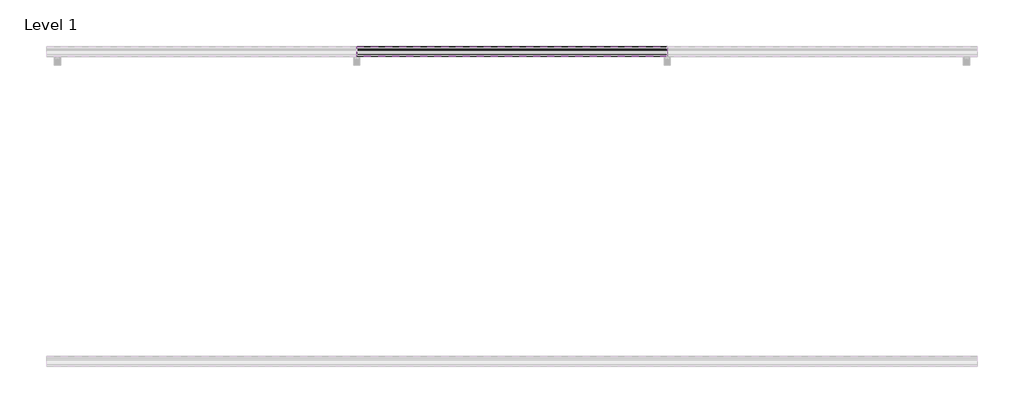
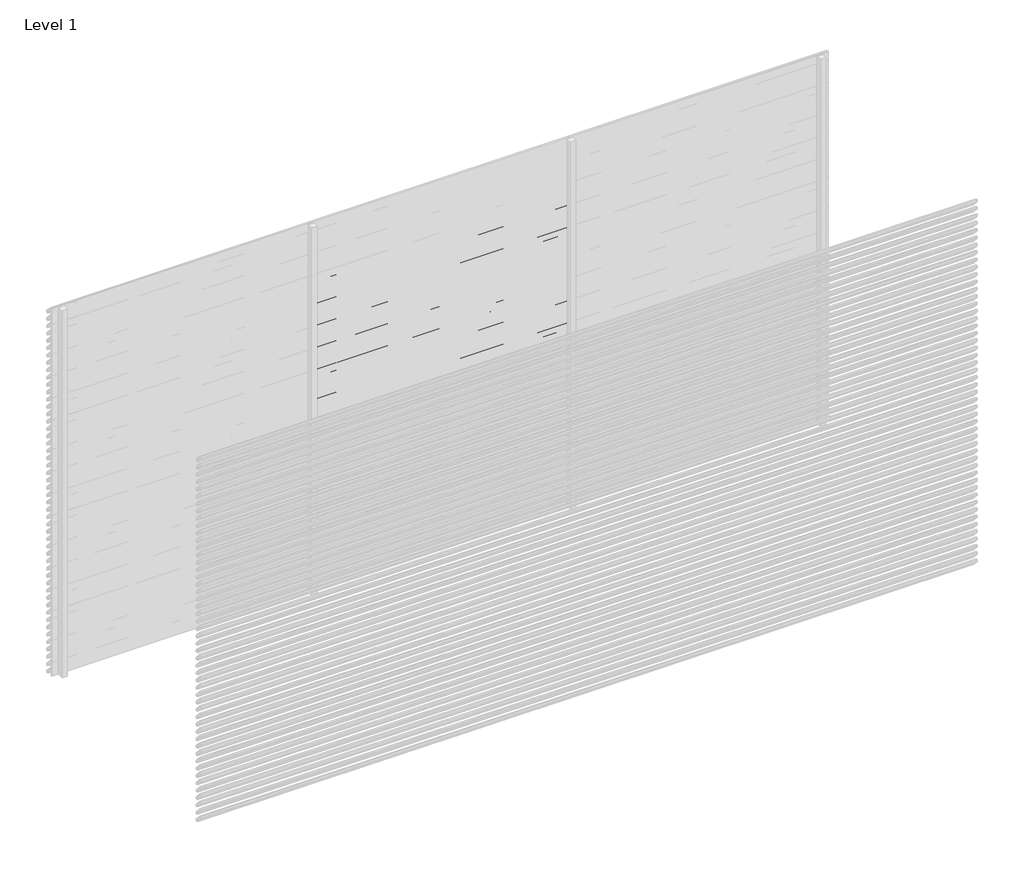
# One storey, part 93 of 153: 33 proxies.
"""IFC4 building model written with IfcOpenShell, lengths in millimetres."""

from ifc_helpers import new_model, si_unit, point, frame, frame_2d, origin, place, context, project, spatial, polyline, circle_curve, trimmed, segment, composite_curve, outline, extrude, element, save

model = new_model("IFC4")

# Units and contexts
model_context = context("Model", 3, world=origin())
ifc_project = project(units=[si_unit("LENGTHUNIT", "METRE", prefix="MILLI")], contexts=[model_context])

# Site, building, storey
site = spatial("IfcSite", under=ifc_project)
building = spatial("IfcBuilding", under=site)
storey = spatial("IfcBuildingStorey", under=building, Name="Level 1", Elevation=0.0)

# Proxies
placement = place(None, origin())
element("IfcBuildingElementProxy", 1, Name="Wall Sweeps", at=placement, inside=storey, context=model_context, shape_type="SweptSolid", body=[
    extrude(outline(composite_curve([segment(polyline([(36485.0540136, 2520.0), (36499.874191, 2518.7034025), (36549.0540136, 2465.0102749), (36549.0540136, 2453.6108187)]), True, "CONTINUOUS"), segment(trimmed(circle_curve(frame_2d((36545.7883652, 2453.897153)), 3.2781774), [point((36549.0540136, 2453.6108187))], [point((36546.4639442, 2450.6893438))], False, "CARTESIAN"), True, "CONTINUOUS"), segment(polyline([(36546.4639442, 2450.6893438), (36534.1895723, 2451.6282758), (36485.0540136, 2505.2730773), (36485.0540136, 2520.0)]), True, "CONTINUOUS")], self_intersect=False), holes=[composite_curve([segment(polyline([(36499.1621773, 2517.2599659), (36486.5540136, 2518.3630372), (36486.5540136, 2505.856213), (36534.8952036, 2453.0786805), (36546.3312542, 2452.2038762)]), True, "CONTINUOUS"), segment(trimmed(circle_curve(frame_2d((36545.7883652, 2453.897153)), 1.7781774), [point((36546.3312542, 2452.2038762))], [point((36547.5540136, 2453.6864389))], True, "CARTESIAN"), True, "CONTINUOUS"), segment(polyline([(36547.5540136, 2453.6864389), (36547.5540136, 2464.4271392), (36499.1621773, 2517.2599659)]), True, "CONTINUOUS")], self_intersect=False)]), frame((46966.6208098, 0.0, 0.0), z_axis=(1.0, 0.0, 0.0), x_axis=(0.0, 1.0, 0.0)), (0.0, 0.0, 1.0), 1999.9999998),
])
element("IfcBuildingElementProxy", 2, Name="Wall Sweeps", at=placement, inside=storey, context=model_context, shape_type="SweptSolid", body=[
    extrude(outline(composite_curve([segment(polyline([(36485.0540136, 2460.0), (36499.874191, 2458.7034025), (36549.0540136, 2405.0102749), (36549.0540136, 2393.6108187)]), True, "CONTINUOUS"), segment(trimmed(circle_curve(frame_2d((36545.7883652, 2393.897153)), 3.2781774), [point((36549.0540136, 2393.6108187))], [point((36546.4639442, 2390.6893438))], False, "CARTESIAN"), True, "CONTINUOUS"), segment(polyline([(36546.4639442, 2390.6893438), (36534.1895723, 2391.6282758), (36485.0540136, 2445.2730773), (36485.0540136, 2460.0)]), True, "CONTINUOUS")], self_intersect=False), holes=[composite_curve([segment(polyline([(36499.1621773, 2457.2599659), (36486.5540136, 2458.3630372), (36486.5540136, 2445.856213), (36534.8952036, 2393.0786805), (36546.3312542, 2392.2038762)]), True, "CONTINUOUS"), segment(trimmed(circle_curve(frame_2d((36545.7883652, 2393.897153)), 1.7781774), [point((36546.3312542, 2392.2038762))], [point((36547.5540136, 2393.6864389))], True, "CARTESIAN"), True, "CONTINUOUS"), segment(polyline([(36547.5540136, 2393.6864389), (36547.5540136, 2404.4271392), (36499.1621773, 2457.2599659)]), True, "CONTINUOUS")], self_intersect=False)]), frame((46966.6208098, 0.0, 0.0), z_axis=(1.0, 0.0, 0.0), x_axis=(0.0, 1.0, 0.0)), (0.0, 0.0, 1.0), 1999.9999998),
])
element("IfcBuildingElementProxy", 3, Name="Wall Sweeps", at=placement, inside=storey, context=model_context, shape_type="SweptSolid", body=[
    extrude(outline(composite_curve([segment(polyline([(36485.0540136, 2400.0), (36499.874191, 2398.7034025), (36549.0540136, 2345.0102749), (36549.0540136, 2333.6108187)]), True, "CONTINUOUS"), segment(trimmed(circle_curve(frame_2d((36545.7883652, 2333.897153)), 3.2781774), [point((36549.0540136, 2333.6108187))], [point((36546.4639442, 2330.6893438))], False, "CARTESIAN"), True, "CONTINUOUS"), segment(polyline([(36546.4639442, 2330.6893438), (36534.1895723, 2331.6282758), (36485.0540136, 2385.2730773), (36485.0540136, 2400.0)]), True, "CONTINUOUS")], self_intersect=False), holes=[composite_curve([segment(polyline([(36499.1621773, 2397.2599659), (36486.5540136, 2398.3630372), (36486.5540136, 2385.856213), (36534.8952036, 2333.0786805), (36546.3312542, 2332.2038762)]), True, "CONTINUOUS"), segment(trimmed(circle_curve(frame_2d((36545.7883652, 2333.897153)), 1.7781774), [point((36546.3312542, 2332.2038762))], [point((36547.5540136, 2333.6864389))], True, "CARTESIAN"), True, "CONTINUOUS"), segment(polyline([(36547.5540136, 2333.6864389), (36547.5540136, 2344.4271392), (36499.1621773, 2397.2599659)]), True, "CONTINUOUS")], self_intersect=False)]), frame((46966.6208098, 0.0, 0.0), z_axis=(1.0, 0.0, 0.0), x_axis=(0.0, 1.0, 0.0)), (0.0, 0.0, 1.0), 1999.9999998),
])
element("IfcBuildingElementProxy", 4, Name="Wall Sweeps", at=placement, inside=storey, context=model_context, shape_type="SweptSolid", body=[
    extrude(outline(composite_curve([segment(polyline([(36485.0540136, 2340.0), (36499.874191, 2338.7034025), (36549.0540136, 2285.0102749), (36549.0540136, 2273.6108187)]), True, "CONTINUOUS"), segment(trimmed(circle_curve(frame_2d((36545.7883652, 2273.897153)), 3.2781774), [point((36549.0540136, 2273.6108187))], [point((36546.4639442, 2270.6893438))], False, "CARTESIAN"), True, "CONTINUOUS"), segment(polyline([(36546.4639442, 2270.6893438), (36534.1895723, 2271.6282758), (36485.0540136, 2325.2730773), (36485.0540136, 2340.0)]), True, "CONTINUOUS")], self_intersect=False), holes=[composite_curve([segment(polyline([(36499.1621773, 2337.2599659), (36486.5540136, 2338.3630372), (36486.5540136, 2325.856213), (36534.8952036, 2273.0786805), (36546.3312542, 2272.2038762)]), True, "CONTINUOUS"), segment(trimmed(circle_curve(frame_2d((36545.7883652, 2273.897153)), 1.7781774), [point((36546.3312542, 2272.2038762))], [point((36547.5540136, 2273.6864389))], True, "CARTESIAN"), True, "CONTINUOUS"), segment(polyline([(36547.5540136, 2273.6864389), (36547.5540136, 2284.4271392), (36499.1621773, 2337.2599659)]), True, "CONTINUOUS")], self_intersect=False)]), frame((46966.6208098, 0.0, 0.0), z_axis=(1.0, 0.0, 0.0), x_axis=(0.0, 1.0, 0.0)), (0.0, 0.0, 1.0), 1999.9999998),
])
element("IfcBuildingElementProxy", 5, Name="Wall Sweeps", at=placement, inside=storey, context=model_context, shape_type="SweptSolid", body=[
    extrude(outline(composite_curve([segment(polyline([(36485.0540136, 2280.0), (36499.874191, 2278.7034025), (36549.0540136, 2225.0102749), (36549.0540136, 2213.6108187)]), True, "CONTINUOUS"), segment(trimmed(circle_curve(frame_2d((36545.7883652, 2213.897153)), 3.2781774), [point((36549.0540136, 2213.6108187))], [point((36546.4639442, 2210.6893438))], False, "CARTESIAN"), True, "CONTINUOUS"), segment(polyline([(36546.4639442, 2210.6893438), (36534.1895723, 2211.6282758), (36485.0540136, 2265.2730773), (36485.0540136, 2280.0)]), True, "CONTINUOUS")], self_intersect=False), holes=[composite_curve([segment(polyline([(36499.1621773, 2277.2599659), (36486.5540136, 2278.3630372), (36486.5540136, 2265.856213), (36534.8952036, 2213.0786805), (36546.3312542, 2212.2038762)]), True, "CONTINUOUS"), segment(trimmed(circle_curve(frame_2d((36545.7883652, 2213.897153)), 1.7781774), [point((36546.3312542, 2212.2038762))], [point((36547.5540136, 2213.6864389))], True, "CARTESIAN"), True, "CONTINUOUS"), segment(polyline([(36547.5540136, 2213.6864389), (36547.5540136, 2224.4271392), (36499.1621773, 2277.2599659)]), True, "CONTINUOUS")], self_intersect=False)]), frame((46966.6208098, 0.0, 0.0), z_axis=(1.0, 0.0, 0.0), x_axis=(0.0, 1.0, 0.0)), (0.0, 0.0, 1.0), 1999.9999998),
])
element("IfcBuildingElementProxy", 6, Name="Wall Sweeps", at=placement, inside=storey, context=model_context, shape_type="SweptSolid", body=[
    extrude(outline(composite_curve([segment(polyline([(36485.0540136, 2220.0), (36499.874191, 2218.7034025), (36549.0540136, 2165.0102749), (36549.0540136, 2153.6108187)]), True, "CONTINUOUS"), segment(trimmed(circle_curve(frame_2d((36545.7883652, 2153.897153)), 3.2781774), [point((36549.0540136, 2153.6108187))], [point((36546.4639442, 2150.6893438))], False, "CARTESIAN"), True, "CONTINUOUS"), segment(polyline([(36546.4639442, 2150.6893438), (36534.1895723, 2151.6282758), (36485.0540136, 2205.2730773), (36485.0540136, 2220.0)]), True, "CONTINUOUS")], self_intersect=False), holes=[composite_curve([segment(polyline([(36499.1621773, 2217.2599659), (36486.5540136, 2218.3630372), (36486.5540136, 2205.856213), (36534.8952036, 2153.0786805), (36546.3312542, 2152.2038762)]), True, "CONTINUOUS"), segment(trimmed(circle_curve(frame_2d((36545.7883652, 2153.897153)), 1.7781774), [point((36546.3312542, 2152.2038762))], [point((36547.5540136, 2153.6864389))], True, "CARTESIAN"), True, "CONTINUOUS"), segment(polyline([(36547.5540136, 2153.6864389), (36547.5540136, 2164.4271392), (36499.1621773, 2217.2599659)]), True, "CONTINUOUS")], self_intersect=False)]), frame((46966.6208098, 0.0, 0.0), z_axis=(1.0, 0.0, 0.0), x_axis=(0.0, 1.0, 0.0)), (0.0, 0.0, 1.0), 1999.9999998),
])
element("IfcBuildingElementProxy", 7, Name="Wall Sweeps", at=placement, inside=storey, context=model_context, shape_type="SweptSolid", body=[
    extrude(outline(composite_curve([segment(polyline([(36485.0540136, 2160.0), (36499.874191, 2158.7034025), (36549.0540136, 2105.0102749), (36549.0540136, 2093.6108187)]), True, "CONTINUOUS"), segment(trimmed(circle_curve(frame_2d((36545.7883652, 2093.897153)), 3.2781774), [point((36549.0540136, 2093.6108187))], [point((36546.4639442, 2090.6893438))], False, "CARTESIAN"), True, "CONTINUOUS"), segment(polyline([(36546.4639442, 2090.6893438), (36534.1895723, 2091.6282758), (36485.0540136, 2145.2730773), (36485.0540136, 2160.0)]), True, "CONTINUOUS")], self_intersect=False), holes=[composite_curve([segment(polyline([(36499.1621773, 2157.2599659), (36486.5540136, 2158.3630372), (36486.5540136, 2145.856213), (36534.8952036, 2093.0786805), (36546.3312542, 2092.2038762)]), True, "CONTINUOUS"), segment(trimmed(circle_curve(frame_2d((36545.7883652, 2093.897153)), 1.7781774), [point((36546.3312542, 2092.2038762))], [point((36547.5540136, 2093.6864389))], True, "CARTESIAN"), True, "CONTINUOUS"), segment(polyline([(36547.5540136, 2093.6864389), (36547.5540136, 2104.4271392), (36499.1621773, 2157.2599659)]), True, "CONTINUOUS")], self_intersect=False)]), frame((46966.6208098, 0.0, 0.0), z_axis=(1.0, 0.0, 0.0), x_axis=(0.0, 1.0, 0.0)), (0.0, 0.0, 1.0), 1999.9999998),
])
element("IfcBuildingElementProxy", 8, Name="Wall Sweeps", at=placement, inside=storey, context=model_context, shape_type="SweptSolid", body=[
    extrude(outline(composite_curve([segment(polyline([(36485.0540136, 2100.0), (36499.874191, 2098.7034025), (36549.0540136, 2045.0102749), (36549.0540136, 2033.6108187)]), True, "CONTINUOUS"), segment(trimmed(circle_curve(frame_2d((36545.7883652, 2033.897153)), 3.2781774), [point((36549.0540136, 2033.6108187))], [point((36546.4639442, 2030.6893438))], False, "CARTESIAN"), True, "CONTINUOUS"), segment(polyline([(36546.4639442, 2030.6893438), (36534.1895723, 2031.6282758), (36485.0540136, 2085.2730773), (36485.0540136, 2100.0)]), True, "CONTINUOUS")], self_intersect=False), holes=[composite_curve([segment(polyline([(36499.1621773, 2097.2599659), (36486.5540136, 2098.3630372), (36486.5540136, 2085.856213), (36534.8952036, 2033.0786805), (36546.3312542, 2032.2038762)]), True, "CONTINUOUS"), segment(trimmed(circle_curve(frame_2d((36545.7883652, 2033.897153)), 1.7781774), [point((36546.3312542, 2032.2038762))], [point((36547.5540136, 2033.6864389))], True, "CARTESIAN"), True, "CONTINUOUS"), segment(polyline([(36547.5540136, 2033.6864389), (36547.5540136, 2044.4271392), (36499.1621773, 2097.2599659)]), True, "CONTINUOUS")], self_intersect=False)]), frame((46966.6208098, 0.0, 0.0), z_axis=(1.0, 0.0, 0.0), x_axis=(0.0, 1.0, 0.0)), (0.0, 0.0, 1.0), 1999.9999998),
])
element("IfcBuildingElementProxy", 9, Name="Wall Sweeps", at=placement, inside=storey, context=model_context, shape_type="SweptSolid", body=[
    extrude(outline(composite_curve([segment(polyline([(36485.0540136, 2040.0), (36499.874191, 2038.7034025), (36549.0540136, 1985.0102749), (36549.0540136, 1973.6108187)]), True, "CONTINUOUS"), segment(trimmed(circle_curve(frame_2d((36545.7883652, 1973.897153)), 3.2781774), [point((36549.0540136, 1973.6108187))], [point((36546.4639442, 1970.6893438))], False, "CARTESIAN"), True, "CONTINUOUS"), segment(polyline([(36546.4639442, 1970.6893438), (36534.1895723, 1971.6282758), (36485.0540136, 2025.2730773), (36485.0540136, 2040.0)]), True, "CONTINUOUS")], self_intersect=False), holes=[composite_curve([segment(polyline([(36499.1621773, 2037.2599659), (36486.5540136, 2038.3630372), (36486.5540136, 2025.856213), (36534.8952036, 1973.0786805), (36546.3312542, 1972.2038762)]), True, "CONTINUOUS"), segment(trimmed(circle_curve(frame_2d((36545.7883652, 1973.897153)), 1.7781774), [point((36546.3312542, 1972.2038762))], [point((36547.5540136, 1973.6864389))], True, "CARTESIAN"), True, "CONTINUOUS"), segment(polyline([(36547.5540136, 1973.6864389), (36547.5540136, 1984.4271392), (36499.1621773, 2037.2599659)]), True, "CONTINUOUS")], self_intersect=False)]), frame((46966.6208098, 0.0, 0.0), z_axis=(1.0, 0.0, 0.0), x_axis=(0.0, 1.0, 0.0)), (0.0, 0.0, 1.0), 1999.9999998),
])
element("IfcBuildingElementProxy", 10, Name="Wall Sweeps", at=placement, inside=storey, context=model_context, shape_type="SweptSolid", body=[
    extrude(outline(composite_curve([segment(polyline([(36485.0540136, 1980.0), (36499.874191, 1978.7034025), (36549.0540136, 1925.0102749), (36549.0540136, 1913.6108187)]), True, "CONTINUOUS"), segment(trimmed(circle_curve(frame_2d((36545.7883652, 1913.897153)), 3.2781774), [point((36549.0540136, 1913.6108187))], [point((36546.4639442, 1910.6893438))], False, "CARTESIAN"), True, "CONTINUOUS"), segment(polyline([(36546.4639442, 1910.6893438), (36534.1895723, 1911.6282758), (36485.0540136, 1965.2730773), (36485.0540136, 1980.0)]), True, "CONTINUOUS")], self_intersect=False), holes=[composite_curve([segment(polyline([(36499.1621773, 1977.2599659), (36486.5540136, 1978.3630372), (36486.5540136, 1965.856213), (36534.8952036, 1913.0786805), (36546.3312542, 1912.2038762)]), True, "CONTINUOUS"), segment(trimmed(circle_curve(frame_2d((36545.7883652, 1913.897153)), 1.7781774), [point((36546.3312542, 1912.2038762))], [point((36547.5540136, 1913.6864389))], True, "CARTESIAN"), True, "CONTINUOUS"), segment(polyline([(36547.5540136, 1913.6864389), (36547.5540136, 1924.4271392), (36499.1621773, 1977.2599659)]), True, "CONTINUOUS")], self_intersect=False)]), frame((46966.6208098, 0.0, 0.0), z_axis=(1.0, 0.0, 0.0), x_axis=(0.0, 1.0, 0.0)), (0.0, 0.0, 1.0), 1999.9999998),
])
element("IfcBuildingElementProxy", 11, Name="Wall Sweeps", at=placement, inside=storey, context=model_context, shape_type="SweptSolid", body=[
    extrude(outline(composite_curve([segment(polyline([(36485.0540136, 1920.0), (36499.874191, 1918.7034025), (36549.0540136, 1865.0102749), (36549.0540136, 1853.6108187)]), True, "CONTINUOUS"), segment(trimmed(circle_curve(frame_2d((36545.7883652, 1853.897153)), 3.2781774), [point((36549.0540136, 1853.6108187))], [point((36546.4639442, 1850.6893438))], False, "CARTESIAN"), True, "CONTINUOUS"), segment(polyline([(36546.4639442, 1850.6893438), (36534.1895723, 1851.6282758), (36485.0540136, 1905.2730773), (36485.0540136, 1920.0)]), True, "CONTINUOUS")], self_intersect=False), holes=[composite_curve([segment(polyline([(36499.1621773, 1917.2599659), (36486.5540136, 1918.3630372), (36486.5540136, 1905.856213), (36534.8952036, 1853.0786805), (36546.3312542, 1852.2038762)]), True, "CONTINUOUS"), segment(trimmed(circle_curve(frame_2d((36545.7883652, 1853.897153)), 1.7781774), [point((36546.3312542, 1852.2038762))], [point((36547.5540136, 1853.6864389))], True, "CARTESIAN"), True, "CONTINUOUS"), segment(polyline([(36547.5540136, 1853.6864389), (36547.5540136, 1864.4271392), (36499.1621773, 1917.2599659)]), True, "CONTINUOUS")], self_intersect=False)]), frame((46966.6208098, 0.0, 0.0), z_axis=(1.0, 0.0, 0.0), x_axis=(0.0, 1.0, 0.0)), (0.0, 0.0, 1.0), 1999.9999998),
])
element("IfcBuildingElementProxy", 12, Name="Wall Sweeps", at=placement, inside=storey, context=model_context, shape_type="SweptSolid", body=[
    extrude(outline(composite_curve([segment(polyline([(36485.0540136, 1860.0), (36499.874191, 1858.7034025), (36549.0540136, 1805.0102749), (36549.0540136, 1793.6108187)]), True, "CONTINUOUS"), segment(trimmed(circle_curve(frame_2d((36545.7883652, 1793.897153)), 3.2781774), [point((36549.0540136, 1793.6108187))], [point((36546.4639442, 1790.6893438))], False, "CARTESIAN"), True, "CONTINUOUS"), segment(polyline([(36546.4639442, 1790.6893438), (36534.1895723, 1791.6282758), (36485.0540136, 1845.2730773), (36485.0540136, 1860.0)]), True, "CONTINUOUS")], self_intersect=False), holes=[composite_curve([segment(polyline([(36499.1621773, 1857.2599659), (36486.5540136, 1858.3630372), (36486.5540136, 1845.856213), (36534.8952036, 1793.0786805), (36546.3312542, 1792.2038762)]), True, "CONTINUOUS"), segment(trimmed(circle_curve(frame_2d((36545.7883652, 1793.897153)), 1.7781774), [point((36546.3312542, 1792.2038762))], [point((36547.5540136, 1793.6864389))], True, "CARTESIAN"), True, "CONTINUOUS"), segment(polyline([(36547.5540136, 1793.6864389), (36547.5540136, 1804.4271392), (36499.1621773, 1857.2599659)]), True, "CONTINUOUS")], self_intersect=False)]), frame((46966.6208098, 0.0, 0.0), z_axis=(1.0, 0.0, 0.0), x_axis=(0.0, 1.0, 0.0)), (0.0, 0.0, 1.0), 1999.9999998),
])
element("IfcBuildingElementProxy", 13, Name="Wall Sweeps", at=placement, inside=storey, context=model_context, shape_type="SweptSolid", body=[
    extrude(outline(composite_curve([segment(polyline([(36485.0540136, 1800.0), (36499.874191, 1798.7034025), (36549.0540136, 1745.0102749), (36549.0540136, 1733.6108187)]), True, "CONTINUOUS"), segment(trimmed(circle_curve(frame_2d((36545.7883652, 1733.897153)), 3.2781774), [point((36549.0540136, 1733.6108187))], [point((36546.4639442, 1730.6893438))], False, "CARTESIAN"), True, "CONTINUOUS"), segment(polyline([(36546.4639442, 1730.6893438), (36534.1895723, 1731.6282758), (36485.0540136, 1785.2730773), (36485.0540136, 1800.0)]), True, "CONTINUOUS")], self_intersect=False), holes=[composite_curve([segment(polyline([(36499.1621773, 1797.2599659), (36486.5540136, 1798.3630372), (36486.5540136, 1785.856213), (36534.8952036, 1733.0786805), (36546.3312542, 1732.2038762)]), True, "CONTINUOUS"), segment(trimmed(circle_curve(frame_2d((36545.7883652, 1733.897153)), 1.7781774), [point((36546.3312542, 1732.2038762))], [point((36547.5540136, 1733.6864389))], True, "CARTESIAN"), True, "CONTINUOUS"), segment(polyline([(36547.5540136, 1733.6864389), (36547.5540136, 1744.4271392), (36499.1621773, 1797.2599659)]), True, "CONTINUOUS")], self_intersect=False)]), frame((46966.6208098, 0.0, 0.0), z_axis=(1.0, 0.0, 0.0), x_axis=(0.0, 1.0, 0.0)), (0.0, 0.0, 1.0), 1999.9999998),
])
element("IfcBuildingElementProxy", 14, Name="Wall Sweeps", at=placement, inside=storey, context=model_context, shape_type="SweptSolid", body=[
    extrude(outline(composite_curve([segment(polyline([(36485.0540136, 1740.0), (36499.874191, 1738.7034025), (36549.0540136, 1685.0102749), (36549.0540136, 1673.6108187)]), True, "CONTINUOUS"), segment(trimmed(circle_curve(frame_2d((36545.7883652, 1673.897153)), 3.2781774), [point((36549.0540136, 1673.6108187))], [point((36546.4639442, 1670.6893438))], False, "CARTESIAN"), True, "CONTINUOUS"), segment(polyline([(36546.4639442, 1670.6893438), (36534.1895723, 1671.6282758), (36485.0540136, 1725.2730773), (36485.0540136, 1740.0)]), True, "CONTINUOUS")], self_intersect=False), holes=[composite_curve([segment(polyline([(36499.1621773, 1737.2599659), (36486.5540136, 1738.3630372), (36486.5540136, 1725.856213), (36534.8952036, 1673.0786805), (36546.3312542, 1672.2038762)]), True, "CONTINUOUS"), segment(trimmed(circle_curve(frame_2d((36545.7883652, 1673.897153)), 1.7781774), [point((36546.3312542, 1672.2038762))], [point((36547.5540136, 1673.6864389))], True, "CARTESIAN"), True, "CONTINUOUS"), segment(polyline([(36547.5540136, 1673.6864389), (36547.5540136, 1684.4271392), (36499.1621773, 1737.2599659)]), True, "CONTINUOUS")], self_intersect=False)]), frame((46966.6208098, 0.0, 0.0), z_axis=(1.0, 0.0, 0.0), x_axis=(0.0, 1.0, 0.0)), (0.0, 0.0, 1.0), 1999.9999998),
])
element("IfcBuildingElementProxy", 15, Name="Wall Sweeps", at=placement, inside=storey, context=model_context, shape_type="SweptSolid", body=[
    extrude(outline(composite_curve([segment(polyline([(36485.0540136, 1680.0), (36499.874191, 1678.7034025), (36549.0540136, 1625.0102749), (36549.0540136, 1613.6108187)]), True, "CONTINUOUS"), segment(trimmed(circle_curve(frame_2d((36545.7883652, 1613.897153)), 3.2781774), [point((36549.0540136, 1613.6108187))], [point((36546.4639442, 1610.6893438))], False, "CARTESIAN"), True, "CONTINUOUS"), segment(polyline([(36546.4639442, 1610.6893438), (36534.1895723, 1611.6282758), (36485.0540136, 1665.2730773), (36485.0540136, 1680.0)]), True, "CONTINUOUS")], self_intersect=False), holes=[composite_curve([segment(polyline([(36499.1621773, 1677.2599659), (36486.5540136, 1678.3630372), (36486.5540136, 1665.856213), (36534.8952036, 1613.0786805), (36546.3312542, 1612.2038762)]), True, "CONTINUOUS"), segment(trimmed(circle_curve(frame_2d((36545.7883652, 1613.897153)), 1.7781774), [point((36546.3312542, 1612.2038762))], [point((36547.5540136, 1613.6864389))], True, "CARTESIAN"), True, "CONTINUOUS"), segment(polyline([(36547.5540136, 1613.6864389), (36547.5540136, 1624.4271392), (36499.1621773, 1677.2599659)]), True, "CONTINUOUS")], self_intersect=False)]), frame((46966.6208098, 0.0, 0.0), z_axis=(1.0, 0.0, 0.0), x_axis=(0.0, 1.0, 0.0)), (0.0, 0.0, 1.0), 1999.9999998),
])
element("IfcBuildingElementProxy", 16, Name="Wall Sweeps", at=placement, inside=storey, context=model_context, shape_type="SweptSolid", body=[
    extrude(outline(composite_curve([segment(polyline([(36485.0540136, 1620.0), (36499.874191, 1618.7034025), (36549.0540136, 1565.0102749), (36549.0540136, 1553.6108187)]), True, "CONTINUOUS"), segment(trimmed(circle_curve(frame_2d((36545.7883652, 1553.897153)), 3.2781774), [point((36549.0540136, 1553.6108187))], [point((36546.4639442, 1550.6893438))], False, "CARTESIAN"), True, "CONTINUOUS"), segment(polyline([(36546.4639442, 1550.6893438), (36534.1895723, 1551.6282758), (36485.0540136, 1605.2730773), (36485.0540136, 1620.0)]), True, "CONTINUOUS")], self_intersect=False), holes=[composite_curve([segment(polyline([(36499.1621773, 1617.2599659), (36486.5540136, 1618.3630372), (36486.5540136, 1605.856213), (36534.8952036, 1553.0786805), (36546.3312542, 1552.2038762)]), True, "CONTINUOUS"), segment(trimmed(circle_curve(frame_2d((36545.7883652, 1553.897153)), 1.7781774), [point((36546.3312542, 1552.2038762))], [point((36547.5540136, 1553.6864389))], True, "CARTESIAN"), True, "CONTINUOUS"), segment(polyline([(36547.5540136, 1553.6864389), (36547.5540136, 1564.4271392), (36499.1621773, 1617.2599659)]), True, "CONTINUOUS")], self_intersect=False)]), frame((46966.6208098, 0.0, 0.0), z_axis=(1.0, 0.0, 0.0), x_axis=(0.0, 1.0, 0.0)), (0.0, 0.0, 1.0), 1999.9999998),
])
element("IfcBuildingElementProxy", 17, Name="Wall Sweeps", at=placement, inside=storey, context=model_context, shape_type="SweptSolid", body=[
    extrude(outline(composite_curve([segment(polyline([(36485.0540136, 1560.0), (36499.874191, 1558.7034025), (36549.0540136, 1505.0102749), (36549.0540136, 1493.6108187)]), True, "CONTINUOUS"), segment(trimmed(circle_curve(frame_2d((36545.7883652, 1493.897153)), 3.2781774), [point((36549.0540136, 1493.6108187))], [point((36546.4639442, 1490.6893438))], False, "CARTESIAN"), True, "CONTINUOUS"), segment(polyline([(36546.4639442, 1490.6893438), (36534.1895723, 1491.6282758), (36485.0540136, 1545.2730773), (36485.0540136, 1560.0)]), True, "CONTINUOUS")], self_intersect=False), holes=[composite_curve([segment(polyline([(36499.1621773, 1557.2599659), (36486.5540136, 1558.3630372), (36486.5540136, 1545.856213), (36534.8952036, 1493.0786805), (36546.3312542, 1492.2038762)]), True, "CONTINUOUS"), segment(trimmed(circle_curve(frame_2d((36545.7883652, 1493.897153)), 1.7781774), [point((36546.3312542, 1492.2038762))], [point((36547.5540136, 1493.6864389))], True, "CARTESIAN"), True, "CONTINUOUS"), segment(polyline([(36547.5540136, 1493.6864389), (36547.5540136, 1504.4271392), (36499.1621773, 1557.2599659)]), True, "CONTINUOUS")], self_intersect=False)]), frame((46966.6208098, 0.0, 0.0), z_axis=(1.0, 0.0, 0.0), x_axis=(0.0, 1.0, 0.0)), (0.0, 0.0, 1.0), 1999.9999998),
])
element("IfcBuildingElementProxy", 18, Name="Wall Sweeps", at=placement, inside=storey, context=model_context, shape_type="SweptSolid", body=[
    extrude(outline(composite_curve([segment(polyline([(36485.0540136, 1500.0), (36499.874191, 1498.7034025), (36549.0540136, 1445.0102749), (36549.0540136, 1433.6108187)]), True, "CONTINUOUS"), segment(trimmed(circle_curve(frame_2d((36545.7883652, 1433.897153)), 3.2781774), [point((36549.0540136, 1433.6108187))], [point((36546.4639442, 1430.6893438))], False, "CARTESIAN"), True, "CONTINUOUS"), segment(polyline([(36546.4639442, 1430.6893438), (36534.1895723, 1431.6282758), (36485.0540136, 1485.2730773), (36485.0540136, 1500.0)]), True, "CONTINUOUS")], self_intersect=False), holes=[composite_curve([segment(polyline([(36499.1621773, 1497.2599659), (36486.5540136, 1498.3630372), (36486.5540136, 1485.856213), (36534.8952036, 1433.0786805), (36546.3312542, 1432.2038762)]), True, "CONTINUOUS"), segment(trimmed(circle_curve(frame_2d((36545.7883652, 1433.897153)), 1.7781774), [point((36546.3312542, 1432.2038762))], [point((36547.5540136, 1433.6864389))], True, "CARTESIAN"), True, "CONTINUOUS"), segment(polyline([(36547.5540136, 1433.6864389), (36547.5540136, 1444.4271392), (36499.1621773, 1497.2599659)]), True, "CONTINUOUS")], self_intersect=False)]), frame((46966.6208098, 0.0, 0.0), z_axis=(1.0, 0.0, 0.0), x_axis=(0.0, 1.0, 0.0)), (0.0, 0.0, 1.0), 1999.9999998),
])
element("IfcBuildingElementProxy", 19, Name="Wall Sweeps", at=placement, inside=storey, context=model_context, shape_type="SweptSolid", body=[
    extrude(outline(composite_curve([segment(polyline([(36485.0540136, 1440.0), (36499.874191, 1438.7034025), (36549.0540136, 1385.0102749), (36549.0540136, 1373.6108187)]), True, "CONTINUOUS"), segment(trimmed(circle_curve(frame_2d((36545.7883652, 1373.897153)), 3.2781774), [point((36549.0540136, 1373.6108187))], [point((36546.4639442, 1370.6893438))], False, "CARTESIAN"), True, "CONTINUOUS"), segment(polyline([(36546.4639442, 1370.6893438), (36534.1895723, 1371.6282758), (36485.0540136, 1425.2730773), (36485.0540136, 1440.0)]), True, "CONTINUOUS")], self_intersect=False), holes=[composite_curve([segment(polyline([(36499.1621773, 1437.2599659), (36486.5540136, 1438.3630372), (36486.5540136, 1425.856213), (36534.8952036, 1373.0786805), (36546.3312542, 1372.2038762)]), True, "CONTINUOUS"), segment(trimmed(circle_curve(frame_2d((36545.7883652, 1373.897153)), 1.7781774), [point((36546.3312542, 1372.2038762))], [point((36547.5540136, 1373.6864389))], True, "CARTESIAN"), True, "CONTINUOUS"), segment(polyline([(36547.5540136, 1373.6864389), (36547.5540136, 1384.4271392), (36499.1621773, 1437.2599659)]), True, "CONTINUOUS")], self_intersect=False)]), frame((46966.6208098, 0.0, 0.0), z_axis=(1.0, 0.0, 0.0), x_axis=(0.0, 1.0, 0.0)), (0.0, 0.0, 1.0), 1999.9999998),
])
element("IfcBuildingElementProxy", 20, Name="Wall Sweeps", at=placement, inside=storey, context=model_context, shape_type="SweptSolid", body=[
    extrude(outline(composite_curve([segment(polyline([(36485.0540136, 1380.0), (36499.874191, 1378.7034025), (36549.0540136, 1325.0102749), (36549.0540136, 1313.6108187)]), True, "CONTINUOUS"), segment(trimmed(circle_curve(frame_2d((36545.7883652, 1313.897153)), 3.2781774), [point((36549.0540136, 1313.6108187))], [point((36546.4639442, 1310.6893438))], False, "CARTESIAN"), True, "CONTINUOUS"), segment(polyline([(36546.4639442, 1310.6893438), (36534.1895723, 1311.6282758), (36485.0540136, 1365.2730773), (36485.0540136, 1380.0)]), True, "CONTINUOUS")], self_intersect=False), holes=[composite_curve([segment(polyline([(36499.1621773, 1377.2599659), (36486.5540136, 1378.3630372), (36486.5540136, 1365.856213), (36534.8952036, 1313.0786805), (36546.3312542, 1312.2038762)]), True, "CONTINUOUS"), segment(trimmed(circle_curve(frame_2d((36545.7883652, 1313.897153)), 1.7781774), [point((36546.3312542, 1312.2038762))], [point((36547.5540136, 1313.6864389))], True, "CARTESIAN"), True, "CONTINUOUS"), segment(polyline([(36547.5540136, 1313.6864389), (36547.5540136, 1324.4271392), (36499.1621773, 1377.2599659)]), True, "CONTINUOUS")], self_intersect=False)]), frame((46966.6208098, 0.0, 0.0), z_axis=(1.0, 0.0, 0.0), x_axis=(0.0, 1.0, 0.0)), (0.0, 0.0, 1.0), 1999.9999998),
])
element("IfcBuildingElementProxy", 21, Name="Wall Sweeps", at=placement, inside=storey, context=model_context, shape_type="SweptSolid", body=[
    extrude(outline(composite_curve([segment(polyline([(36485.0540136, 1320.0), (36499.874191, 1318.7034025), (36549.0540136, 1265.0102749), (36549.0540136, 1253.6108187)]), True, "CONTINUOUS"), segment(trimmed(circle_curve(frame_2d((36545.7883652, 1253.897153)), 3.2781774), [point((36549.0540136, 1253.6108187))], [point((36546.4639442, 1250.6893438))], False, "CARTESIAN"), True, "CONTINUOUS"), segment(polyline([(36546.4639442, 1250.6893438), (36534.1895723, 1251.6282758), (36485.0540136, 1305.2730773), (36485.0540136, 1320.0)]), True, "CONTINUOUS")], self_intersect=False), holes=[composite_curve([segment(polyline([(36499.1621773, 1317.2599659), (36486.5540136, 1318.3630372), (36486.5540136, 1305.856213), (36534.8952036, 1253.0786805), (36546.3312542, 1252.2038762)]), True, "CONTINUOUS"), segment(trimmed(circle_curve(frame_2d((36545.7883652, 1253.897153)), 1.7781774), [point((36546.3312542, 1252.2038762))], [point((36547.5540136, 1253.6864389))], True, "CARTESIAN"), True, "CONTINUOUS"), segment(polyline([(36547.5540136, 1253.6864389), (36547.5540136, 1264.4271392), (36499.1621773, 1317.2599659)]), True, "CONTINUOUS")], self_intersect=False)]), frame((46966.6208098, 0.0, 0.0), z_axis=(1.0, 0.0, 0.0), x_axis=(0.0, 1.0, 0.0)), (0.0, 0.0, 1.0), 1999.9999998),
])
element("IfcBuildingElementProxy", 22, Name="Wall Sweeps", at=placement, inside=storey, context=model_context, shape_type="SweptSolid", body=[
    extrude(outline(composite_curve([segment(polyline([(36485.0540136, 1260.0), (36499.874191, 1258.7034025), (36549.0540136, 1205.0102749), (36549.0540136, 1193.6108187)]), True, "CONTINUOUS"), segment(trimmed(circle_curve(frame_2d((36545.7883652, 1193.897153)), 3.2781774), [point((36549.0540136, 1193.6108187))], [point((36546.4639442, 1190.6893438))], False, "CARTESIAN"), True, "CONTINUOUS"), segment(polyline([(36546.4639442, 1190.6893438), (36534.1895723, 1191.6282758), (36485.0540136, 1245.2730773), (36485.0540136, 1260.0)]), True, "CONTINUOUS")], self_intersect=False), holes=[composite_curve([segment(polyline([(36499.1621773, 1257.2599659), (36486.5540136, 1258.3630372), (36486.5540136, 1245.856213), (36534.8952036, 1193.0786805), (36546.3312542, 1192.2038762)]), True, "CONTINUOUS"), segment(trimmed(circle_curve(frame_2d((36545.7883652, 1193.897153)), 1.7781774), [point((36546.3312542, 1192.2038762))], [point((36547.5540136, 1193.6864389))], True, "CARTESIAN"), True, "CONTINUOUS"), segment(polyline([(36547.5540136, 1193.6864389), (36547.5540136, 1204.4271392), (36499.1621773, 1257.2599659)]), True, "CONTINUOUS")], self_intersect=False)]), frame((46966.6208098, 0.0, 0.0), z_axis=(1.0, 0.0, 0.0), x_axis=(0.0, 1.0, 0.0)), (0.0, 0.0, 1.0), 1999.9999998),
])
element("IfcBuildingElementProxy", 23, Name="Wall Sweeps", at=placement, inside=storey, context=model_context, shape_type="SweptSolid", body=[
    extrude(outline(composite_curve([segment(polyline([(36485.0540136, 1200.0), (36499.874191, 1198.7034025), (36549.0540136, 1145.0102749), (36549.0540136, 1133.6108187)]), True, "CONTINUOUS"), segment(trimmed(circle_curve(frame_2d((36545.7883652, 1133.897153)), 3.2781774), [point((36549.0540136, 1133.6108187))], [point((36546.4639442, 1130.6893438))], False, "CARTESIAN"), True, "CONTINUOUS"), segment(polyline([(36546.4639442, 1130.6893438), (36534.1895723, 1131.6282758), (36485.0540136, 1185.2730773), (36485.0540136, 1200.0)]), True, "CONTINUOUS")], self_intersect=False), holes=[composite_curve([segment(polyline([(36499.1621773, 1197.2599659), (36486.5540136, 1198.3630372), (36486.5540136, 1185.856213), (36534.8952036, 1133.0786805), (36546.3312542, 1132.2038762)]), True, "CONTINUOUS"), segment(trimmed(circle_curve(frame_2d((36545.7883652, 1133.897153)), 1.7781774), [point((36546.3312542, 1132.2038762))], [point((36547.5540136, 1133.6864389))], True, "CARTESIAN"), True, "CONTINUOUS"), segment(polyline([(36547.5540136, 1133.6864389), (36547.5540136, 1144.4271392), (36499.1621773, 1197.2599659)]), True, "CONTINUOUS")], self_intersect=False)]), frame((46966.6208098, 0.0, 0.0), z_axis=(1.0, 0.0, 0.0), x_axis=(0.0, 1.0, 0.0)), (0.0, 0.0, 1.0), 1999.9999998),
])
element("IfcBuildingElementProxy", 24, Name="Wall Sweeps", at=placement, inside=storey, context=model_context, shape_type="SweptSolid", body=[
    extrude(outline(composite_curve([segment(polyline([(36485.0540136, 1140.0), (36499.874191, 1138.7034025), (36549.0540136, 1085.0102749), (36549.0540136, 1073.6108187)]), True, "CONTINUOUS"), segment(trimmed(circle_curve(frame_2d((36545.7883652, 1073.897153)), 3.2781774), [point((36549.0540136, 1073.6108187))], [point((36546.4639442, 1070.6893438))], False, "CARTESIAN"), True, "CONTINUOUS"), segment(polyline([(36546.4639442, 1070.6893438), (36534.1895723, 1071.6282758), (36485.0540136, 1125.2730773), (36485.0540136, 1140.0)]), True, "CONTINUOUS")], self_intersect=False), holes=[composite_curve([segment(polyline([(36499.1621773, 1137.2599659), (36486.5540136, 1138.3630372), (36486.5540136, 1125.856213), (36534.8952036, 1073.0786805), (36546.3312542, 1072.2038762)]), True, "CONTINUOUS"), segment(trimmed(circle_curve(frame_2d((36545.7883652, 1073.897153)), 1.7781774), [point((36546.3312542, 1072.2038762))], [point((36547.5540136, 1073.6864389))], True, "CARTESIAN"), True, "CONTINUOUS"), segment(polyline([(36547.5540136, 1073.6864389), (36547.5540136, 1084.4271392), (36499.1621773, 1137.2599659)]), True, "CONTINUOUS")], self_intersect=False)]), frame((46966.6208098, 0.0, 0.0), z_axis=(1.0, 0.0, 0.0), x_axis=(0.0, 1.0, 0.0)), (0.0, 0.0, 1.0), 1999.9999998),
])
element("IfcBuildingElementProxy", 25, Name="Wall Sweeps", at=placement, inside=storey, context=model_context, shape_type="SweptSolid", body=[
    extrude(outline(composite_curve([segment(polyline([(36485.0540136, 1080.0), (36499.874191, 1078.7034025), (36549.0540136, 1025.0102749), (36549.0540136, 1013.6108187)]), True, "CONTINUOUS"), segment(trimmed(circle_curve(frame_2d((36545.7883652, 1013.897153)), 3.2781774), [point((36549.0540136, 1013.6108187))], [point((36546.4639442, 1010.6893438))], False, "CARTESIAN"), True, "CONTINUOUS"), segment(polyline([(36546.4639442, 1010.6893438), (36534.1895723, 1011.6282758), (36485.0540136, 1065.2730773), (36485.0540136, 1080.0)]), True, "CONTINUOUS")], self_intersect=False), holes=[composite_curve([segment(polyline([(36499.1621773, 1077.2599659), (36486.5540136, 1078.3630372), (36486.5540136, 1065.856213), (36534.8952036, 1013.0786805), (36546.3312542, 1012.2038762)]), True, "CONTINUOUS"), segment(trimmed(circle_curve(frame_2d((36545.7883652, 1013.897153)), 1.7781774), [point((36546.3312542, 1012.2038762))], [point((36547.5540136, 1013.6864389))], True, "CARTESIAN"), True, "CONTINUOUS"), segment(polyline([(36547.5540136, 1013.6864389), (36547.5540136, 1024.4271392), (36499.1621773, 1077.2599659)]), True, "CONTINUOUS")], self_intersect=False)]), frame((46966.6208098, 0.0, 0.0), z_axis=(1.0, 0.0, 0.0), x_axis=(0.0, 1.0, 0.0)), (0.0, 0.0, 1.0), 1999.9999998),
])
element("IfcBuildingElementProxy", 26, Name="Wall Sweeps", at=placement, inside=storey, context=model_context, shape_type="SweptSolid", body=[
    extrude(outline(composite_curve([segment(polyline([(36485.0540136, 1020.0), (36499.874191, 1018.7034025), (36549.0540136, 965.0102749), (36549.0540136, 953.6108187)]), True, "CONTINUOUS"), segment(trimmed(circle_curve(frame_2d((36545.7883652, 953.897153)), 3.2781774), [point((36549.0540136, 953.6108187))], [point((36546.4639442, 950.6893438))], False, "CARTESIAN"), True, "CONTINUOUS"), segment(polyline([(36546.4639442, 950.6893438), (36534.1895723, 951.6282758), (36485.0540136, 1005.2730773), (36485.0540136, 1020.0)]), True, "CONTINUOUS")], self_intersect=False), holes=[composite_curve([segment(polyline([(36499.1621773, 1017.2599659), (36486.5540136, 1018.3630372), (36486.5540136, 1005.856213), (36534.8952036, 953.0786805), (36546.3312542, 952.2038762)]), True, "CONTINUOUS"), segment(trimmed(circle_curve(frame_2d((36545.7883652, 953.897153)), 1.7781774), [point((36546.3312542, 952.2038762))], [point((36547.5540136, 953.6864389))], True, "CARTESIAN"), True, "CONTINUOUS"), segment(polyline([(36547.5540136, 953.6864389), (36547.5540136, 964.4271392), (36499.1621773, 1017.2599659)]), True, "CONTINUOUS")], self_intersect=False)]), frame((46966.6208098, 0.0, 0.0), z_axis=(1.0, 0.0, 0.0), x_axis=(0.0, 1.0, 0.0)), (0.0, 0.0, 1.0), 1999.9999998),
])
element("IfcBuildingElementProxy", 27, Name="Wall Sweeps", at=placement, inside=storey, context=model_context, shape_type="SweptSolid", body=[
    extrude(outline(composite_curve([segment(polyline([(36485.0540136, 960.0), (36499.874191, 958.7034025), (36549.0540136, 905.0102749), (36549.0540136, 893.6108187)]), True, "CONTINUOUS"), segment(trimmed(circle_curve(frame_2d((36545.7883652, 893.897153)), 3.2781774), [point((36549.0540136, 893.6108187))], [point((36546.4639442, 890.6893438))], False, "CARTESIAN"), True, "CONTINUOUS"), segment(polyline([(36546.4639442, 890.6893438), (36534.1895723, 891.6282758), (36485.0540136, 945.2730773), (36485.0540136, 960.0)]), True, "CONTINUOUS")], self_intersect=False), holes=[composite_curve([segment(polyline([(36499.1621773, 957.2599659), (36486.5540136, 958.3630372), (36486.5540136, 945.856213), (36534.8952036, 893.0786805), (36546.3312542, 892.2038762)]), True, "CONTINUOUS"), segment(trimmed(circle_curve(frame_2d((36545.7883652, 893.897153)), 1.7781774), [point((36546.3312542, 892.2038762))], [point((36547.5540136, 893.6864389))], True, "CARTESIAN"), True, "CONTINUOUS"), segment(polyline([(36547.5540136, 893.6864389), (36547.5540136, 904.4271392), (36499.1621773, 957.2599659)]), True, "CONTINUOUS")], self_intersect=False)]), frame((46966.6208098, 0.0, 0.0), z_axis=(1.0, 0.0, 0.0), x_axis=(0.0, 1.0, 0.0)), (0.0, 0.0, 1.0), 1999.9999998),
])
element("IfcBuildingElementProxy", 28, Name="Wall Sweeps", at=placement, inside=storey, context=model_context, shape_type="SweptSolid", body=[
    extrude(outline(composite_curve([segment(polyline([(36485.0540136, 900.0), (36499.874191, 898.7034025), (36549.0540136, 845.0102749), (36549.0540136, 833.6108187)]), True, "CONTINUOUS"), segment(trimmed(circle_curve(frame_2d((36545.7883652, 833.897153)), 3.2781774), [point((36549.0540136, 833.6108187))], [point((36546.4639442, 830.6893438))], False, "CARTESIAN"), True, "CONTINUOUS"), segment(polyline([(36546.4639442, 830.6893438), (36534.1895723, 831.6282758), (36485.0540136, 885.2730773), (36485.0540136, 900.0)]), True, "CONTINUOUS")], self_intersect=False), holes=[composite_curve([segment(polyline([(36499.1621773, 897.2599659), (36486.5540136, 898.3630372), (36486.5540136, 885.856213), (36534.8952036, 833.0786805), (36546.3312542, 832.2038762)]), True, "CONTINUOUS"), segment(trimmed(circle_curve(frame_2d((36545.7883652, 833.897153)), 1.7781774), [point((36546.3312542, 832.2038762))], [point((36547.5540136, 833.6864389))], True, "CARTESIAN"), True, "CONTINUOUS"), segment(polyline([(36547.5540136, 833.6864389), (36547.5540136, 844.4271392), (36499.1621773, 897.2599659)]), True, "CONTINUOUS")], self_intersect=False)]), frame((46966.6208098, 0.0, 0.0), z_axis=(1.0, 0.0, 0.0), x_axis=(0.0, 1.0, 0.0)), (0.0, 0.0, 1.0), 1999.9999998),
])
element("IfcBuildingElementProxy", 29, Name="Wall Sweeps", at=placement, inside=storey, context=model_context, shape_type="SweptSolid", body=[
    extrude(outline(composite_curve([segment(polyline([(36485.0540136, 840.0), (36499.874191, 838.7034025), (36549.0540136, 785.0102749), (36549.0540136, 773.6108187)]), True, "CONTINUOUS"), segment(trimmed(circle_curve(frame_2d((36545.7883652, 773.897153)), 3.2781774), [point((36549.0540136, 773.6108187))], [point((36546.4639442, 770.6893438))], False, "CARTESIAN"), True, "CONTINUOUS"), segment(polyline([(36546.4639442, 770.6893438), (36534.1895723, 771.6282758), (36485.0540136, 825.2730773), (36485.0540136, 840.0)]), True, "CONTINUOUS")], self_intersect=False), holes=[composite_curve([segment(polyline([(36499.1621773, 837.2599659), (36486.5540136, 838.3630372), (36486.5540136, 825.856213), (36534.8952036, 773.0786805), (36546.3312542, 772.2038762)]), True, "CONTINUOUS"), segment(trimmed(circle_curve(frame_2d((36545.7883652, 773.897153)), 1.7781774), [point((36546.3312542, 772.2038762))], [point((36547.5540136, 773.6864389))], True, "CARTESIAN"), True, "CONTINUOUS"), segment(polyline([(36547.5540136, 773.6864389), (36547.5540136, 784.4271392), (36499.1621773, 837.2599659)]), True, "CONTINUOUS")], self_intersect=False)]), frame((46966.6208098, 0.0, 0.0), z_axis=(1.0, 0.0, 0.0), x_axis=(0.0, 1.0, 0.0)), (0.0, 0.0, 1.0), 1999.9999998),
])
element("IfcBuildingElementProxy", 30, Name="Wall Sweeps", at=placement, inside=storey, context=model_context, shape_type="SweptSolid", body=[
    extrude(outline(composite_curve([segment(polyline([(36485.0540136, 780.0), (36499.874191, 778.7034025), (36549.0540136, 725.0102749), (36549.0540136, 713.6108187)]), True, "CONTINUOUS"), segment(trimmed(circle_curve(frame_2d((36545.7883652, 713.897153)), 3.2781774), [point((36549.0540136, 713.6108187))], [point((36546.4639442, 710.6893438))], False, "CARTESIAN"), True, "CONTINUOUS"), segment(polyline([(36546.4639442, 710.6893438), (36534.1895723, 711.6282758), (36485.0540136, 765.2730773), (36485.0540136, 780.0)]), True, "CONTINUOUS")], self_intersect=False), holes=[composite_curve([segment(polyline([(36499.1621773, 777.2599659), (36486.5540136, 778.3630372), (36486.5540136, 765.856213), (36534.8952036, 713.0786805), (36546.3312542, 712.2038762)]), True, "CONTINUOUS"), segment(trimmed(circle_curve(frame_2d((36545.7883652, 713.897153)), 1.7781774), [point((36546.3312542, 712.2038762))], [point((36547.5540136, 713.6864389))], True, "CARTESIAN"), True, "CONTINUOUS"), segment(polyline([(36547.5540136, 713.6864389), (36547.5540136, 724.4271392), (36499.1621773, 777.2599659)]), True, "CONTINUOUS")], self_intersect=False)]), frame((46966.6208098, 0.0, 0.0), z_axis=(1.0, 0.0, 0.0), x_axis=(0.0, 1.0, 0.0)), (0.0, 0.0, 1.0), 1999.9999998),
])
element("IfcBuildingElementProxy", 31, Name="Wall Sweeps", at=placement, inside=storey, context=model_context, shape_type="SweptSolid", body=[
    extrude(outline(composite_curve([segment(polyline([(36485.0540136, 720.0), (36499.874191, 718.7034025), (36549.0540136, 665.0102749), (36549.0540136, 653.6108187)]), True, "CONTINUOUS"), segment(trimmed(circle_curve(frame_2d((36545.7883652, 653.897153)), 3.2781774), [point((36549.0540136, 653.6108187))], [point((36546.4639442, 650.6893438))], False, "CARTESIAN"), True, "CONTINUOUS"), segment(polyline([(36546.4639442, 650.6893438), (36534.1895723, 651.6282758), (36485.0540136, 705.2730773), (36485.0540136, 720.0)]), True, "CONTINUOUS")], self_intersect=False), holes=[composite_curve([segment(polyline([(36499.1621773, 717.2599659), (36486.5540136, 718.3630372), (36486.5540136, 705.856213), (36534.8952036, 653.0786805), (36546.3312542, 652.2038762)]), True, "CONTINUOUS"), segment(trimmed(circle_curve(frame_2d((36545.7883652, 653.897153)), 1.7781774), [point((36546.3312542, 652.2038762))], [point((36547.5540136, 653.6864389))], True, "CARTESIAN"), True, "CONTINUOUS"), segment(polyline([(36547.5540136, 653.6864389), (36547.5540136, 664.4271392), (36499.1621773, 717.2599659)]), True, "CONTINUOUS")], self_intersect=False)]), frame((46966.6208098, 0.0, 0.0), z_axis=(1.0, 0.0, 0.0), x_axis=(0.0, 1.0, 0.0)), (0.0, 0.0, 1.0), 1999.9999998),
])
element("IfcBuildingElementProxy", 32, Name="Wall Sweeps", at=placement, inside=storey, context=model_context, shape_type="SweptSolid", body=[
    extrude(outline(composite_curve([segment(polyline([(36485.0540136, 660.0), (36499.874191, 658.7034025), (36549.0540136, 605.0102749), (36549.0540136, 593.6108187)]), True, "CONTINUOUS"), segment(trimmed(circle_curve(frame_2d((36545.7883652, 593.897153)), 3.2781774), [point((36549.0540136, 593.6108187))], [point((36546.4639442, 590.6893438))], False, "CARTESIAN"), True, "CONTINUOUS"), segment(polyline([(36546.4639442, 590.6893438), (36534.1895723, 591.6282758), (36485.0540136, 645.2730773), (36485.0540136, 660.0)]), True, "CONTINUOUS")], self_intersect=False), holes=[composite_curve([segment(polyline([(36499.1621773, 657.2599659), (36486.5540136, 658.3630372), (36486.5540136, 645.856213), (36534.8952036, 593.0786805), (36546.3312542, 592.2038762)]), True, "CONTINUOUS"), segment(trimmed(circle_curve(frame_2d((36545.7883652, 593.897153)), 1.7781774), [point((36546.3312542, 592.2038762))], [point((36547.5540136, 593.6864389))], True, "CARTESIAN"), True, "CONTINUOUS"), segment(polyline([(36547.5540136, 593.6864389), (36547.5540136, 604.4271392), (36499.1621773, 657.2599659)]), True, "CONTINUOUS")], self_intersect=False)]), frame((46966.6208098, 0.0, 0.0), z_axis=(1.0, 0.0, 0.0), x_axis=(0.0, 1.0, 0.0)), (0.0, 0.0, 1.0), 1999.9999998),
])
element("IfcBuildingElementProxy", 33, Name="Wall Sweeps", at=placement, inside=storey, context=model_context, shape_type="SweptSolid", body=[
    extrude(outline(composite_curve([segment(polyline([(36485.0540136, 600.0), (36499.874191, 598.7034025), (36549.0540136, 545.0102749), (36549.0540136, 533.6108187)]), True, "CONTINUOUS"), segment(trimmed(circle_curve(frame_2d((36545.7883652, 533.897153)), 3.2781774), [point((36549.0540136, 533.6108187))], [point((36546.4639442, 530.6893438))], False, "CARTESIAN"), True, "CONTINUOUS"), segment(polyline([(36546.4639442, 530.6893438), (36534.1895723, 531.6282758), (36485.0540136, 585.2730773), (36485.0540136, 600.0)]), True, "CONTINUOUS")], self_intersect=False), holes=[composite_curve([segment(polyline([(36499.1621773, 597.2599659), (36486.5540136, 598.3630372), (36486.5540136, 585.856213), (36534.8952036, 533.0786805), (36546.3312542, 532.2038762)]), True, "CONTINUOUS"), segment(trimmed(circle_curve(frame_2d((36545.7883652, 533.897153)), 1.7781774), [point((36546.3312542, 532.2038762))], [point((36547.5540136, 533.6864389))], True, "CARTESIAN"), True, "CONTINUOUS"), segment(polyline([(36547.5540136, 533.6864389), (36547.5540136, 544.4271392), (36499.1621773, 597.2599659)]), True, "CONTINUOUS")], self_intersect=False)]), frame((46966.6208098, 0.0, 0.0), z_axis=(1.0, 0.0, 0.0), x_axis=(0.0, 1.0, 0.0)), (0.0, 0.0, 1.0), 1999.9999998),
])

save(model, "model.ifc")
